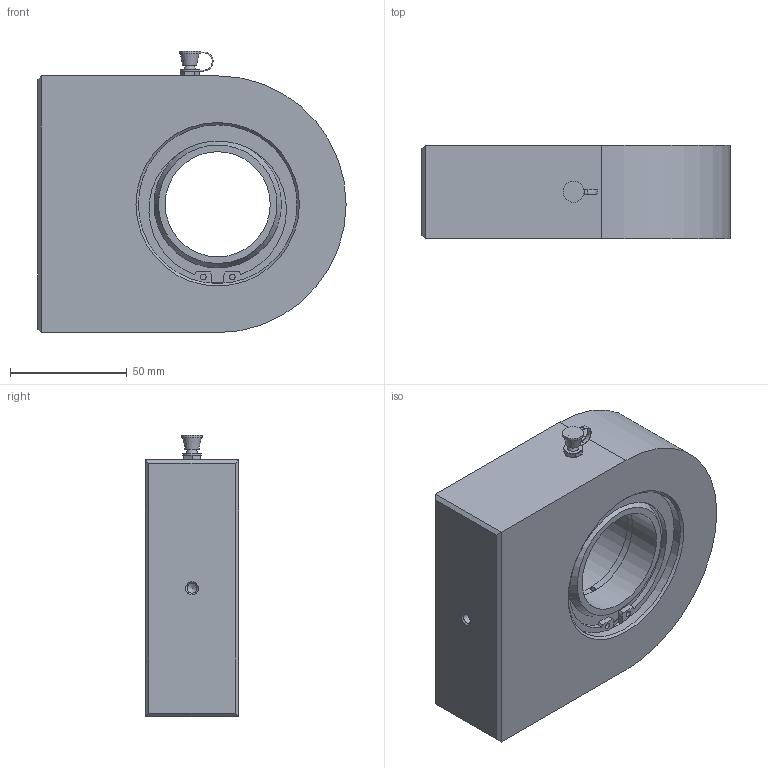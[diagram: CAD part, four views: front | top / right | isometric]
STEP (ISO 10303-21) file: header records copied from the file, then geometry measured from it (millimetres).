
FILE_DESCRIPTION( ( 'Unknown' ), '1' );
FILE_NAME( 'E:/LIBRERIA_3d/SNODI INDUSTRIALI/CSTS045N00.stp', 'Unknown', ( 'Unknown' ), ( 'Unknown' ), 'PSStep 17.0.49', 'Unknown', ' ' );
FILE_SCHEMA( ( 'AUTOMOTIVE_DESIGN { 1 0 10303 214 1 1 1 1 }' ) );
Length unit declared in the file: millimetre
Products named in the file (8): CSTSF045N0; CSTS045N_CORPO-oa0; AN00006001; CSCSEIV068; CSCSEIV068-oa1; Assem1; cge0450000; APGR013000
Assembly tree (7 placements, depth 3):
  Assem1
    cge0450000
    APGR013000
    CSTSF045N0
      CSTS045N_CORPO-oa0
      AN00006001
      CSCSEIV068
      CSCSEIV068-oa1
Bounding box: 132 x 40 x 120.5 mm (x, y, z)
Volume: 441828.2 mm3; surface area: 69124.9 mm2
Topology: 6 solids, 6 shells, 104 faces, 238 edges, 154 vertices
Faces by surface type: plane 46, cylinder 37, torus 8, cone 6, bspline 5, sphere 2
Full cylindrical faces by diameter (mm): 2 x2, 2.5 x4, 4.25 x1, 5 x3, 6 x1, 8 x1, 9 x1, 45 x2, 68 x5, 71 x2
Entity records: 4411 total; most frequent: CARTESIAN_POINT 1315, DIRECTION 468, ORIENTED_EDGE 348, AXIS2_PLACEMENT_3D 197, EDGE_LOOP 176, EDGE_CURVE 174, FACE_OUTER_BOUND 140, VERTEX_POINT 136
